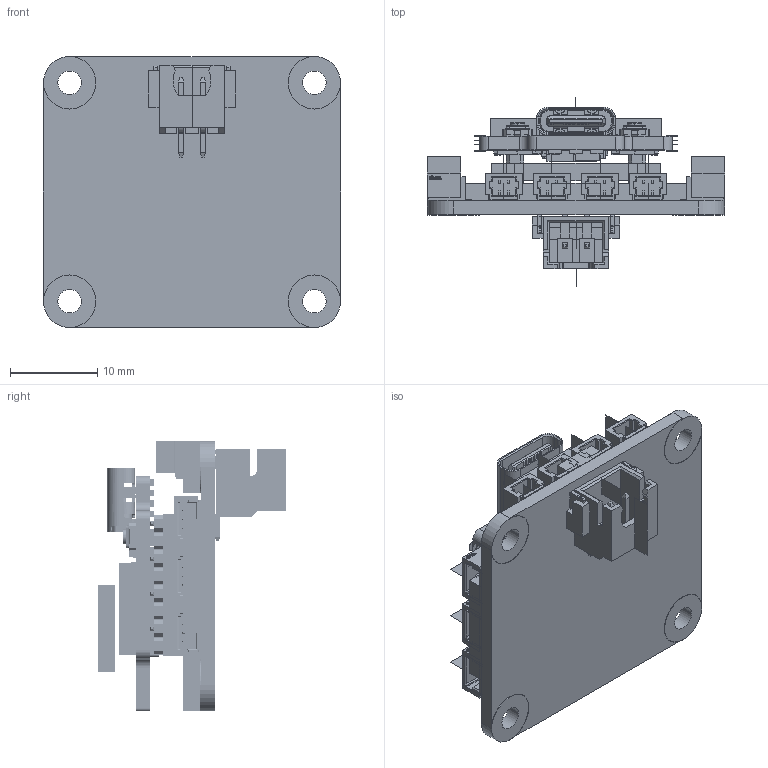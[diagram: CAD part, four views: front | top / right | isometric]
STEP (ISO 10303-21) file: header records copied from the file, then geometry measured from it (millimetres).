
FILE_DESCRIPTION((''),'2;1');
FILE_NAME('PCBA-V2000_ASM','2025-06-18T10:08:04',('qinghui.yi'),(''),'CREO PARAMETRIC BY PTC INC, 2023154','CREO PARAMETRIC BY PTC INC, 2023154','');
FILE_SCHEMA(('CONFIG_CONTROL_DESIGN'));
Products named in the file (7): PCB-V2000; DIANYUAN-B; 1_0-3PIN; 1_0-2PIN; 2_0-8PIN; CORE-V3-3; PCBA-V2000_ASM
Assembly tree (15 placements, depth 2):
  PCBA-V2000_ASM
    PCB-V2000
    DIANYUAN-B
    1_0-3PIN  x6
    1_0-2PIN  x4
    2_0-8PIN  x2
    CORE-V3-3
Bounding box: 34 x 21.6 x 31 mm (x, y, z)
Volume: 3920.3 mm3; surface area: 8528.6 mm2
Topology: 17 solids, 614 shells, 7201 faces, 21332 edges, 14903 vertices
Faces by surface type: plane 5471, cylinder 1019, extrusion 629, cone 44, torus 24, bspline 14
Entity records: 149323 total; most frequent: CARTESIAN_POINT 37993, ORIENTED_EDGE 22633, DIRECTION 20775, EDGE_CURVE 12712, VECTOR 10009, LINE 9845, VERTEX_POINT 9278, AXIS2_PLACEMENT_3D 5383
